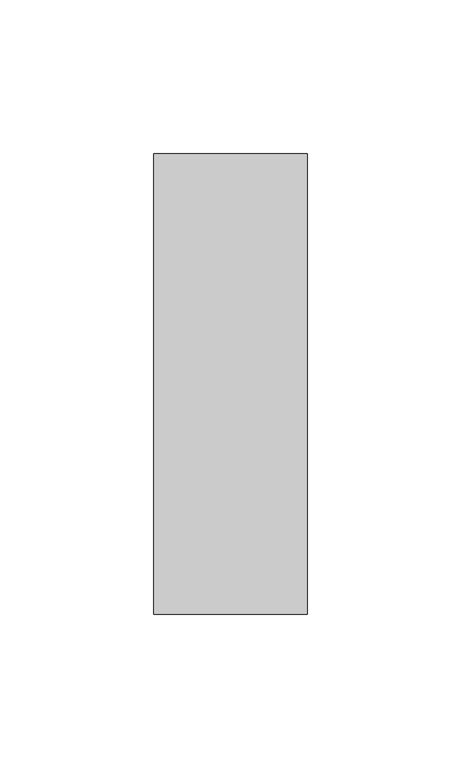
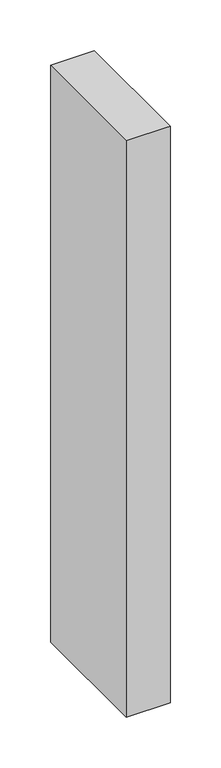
"""IFC4 building model written with IfcOpenShell, lengths in millimetres: member geometry, Прямоугольный импост : 50 x 150 мм."""

from ifc_helpers import new_model, si_unit, origin, place, context, project, spatial, faceted_brep, source, transform, mapped, element, save


def member_b282e75b(model_context):
    return source(origin(), model_context, "Body", "Brep", [
        faceted_brep([(25.0, 75.0, -696.6790859), (25.0, -75.0, -696.6790859), (-25.0, -75.0, -696.6790859), (-25.0, 75.0, -696.6790859), (-25.0, 75.0, -0.0137486), (25.0, 75.0, 0.2288709), (-25.0, -75.0, -0.2288709), (25.0, -75.0, 0.0137486)], [[[0, 1, 2, 3]], [[4, 5, 0, 3]], [[6, 4, 3, 2]], [[7, 6, 2, 1]], [[5, 7, 1, 0]], [[5, 4, 6, 7]]]),
    ])


if __name__ == "__main__":
    model = new_model("IFC4")
    model_context = context("Model", 3, world=origin())
    ifc_project = project(units=[si_unit("LENGTHUNIT", "METRE", prefix="MILLI")], contexts=[model_context])
    site = spatial("IfcSite", under=ifc_project)
    building = spatial("IfcBuilding", under=site)
    placement = place(None, origin())
    member_shape = member_b282e75b(model_context)
    element("IfcMember", 1, ObjectType="Прямоугольный импост : 50 x 150 мм", at=placement, inside=building, context=model_context, shape_type="MappedRepresentation", body=[
        mapped(member_shape, transform((0.0, 0.0, 0.0), x_axis=(1.0, 0.0, 0.0), y_axis=(0.0, 1.0, 0.0), z_axis=(0.0, 0.0, 1.0))),
    ])
    save(model, "model.ifc")
